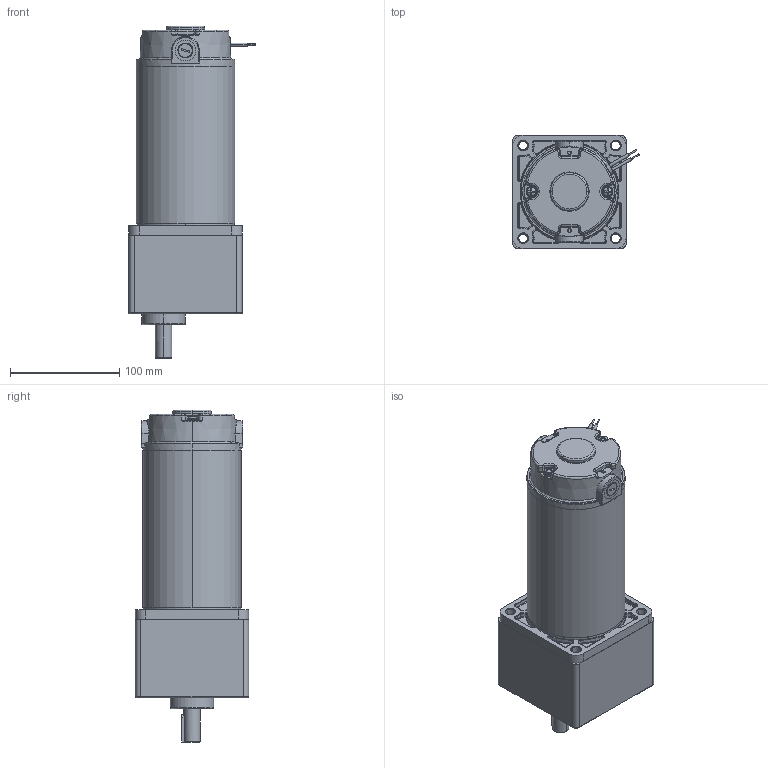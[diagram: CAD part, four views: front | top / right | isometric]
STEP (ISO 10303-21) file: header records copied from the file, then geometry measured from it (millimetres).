
FILE_DESCRIPTION (( 'STEP AP203' ), '1' );
FILE_NAME ('104ÐÍ400W.STEP', '2020-01-16T07:25:11', ( 'XYDIY' ), ( 'XIAOYIN.Com' ), 'SwSTEP 2.0', 'SolidWorks 2014', '' );
FILE_SCHEMA (( 'CONFIG_CONTROL_DESIGN' ));
Length unit declared in the file: millimetre
Products named in the file (1): 104倰400W
Bounding box: 115.97 x 104 x 304.2 mm (x, y, z)
Surface area: 126505.4 mm2 (no closed solid volume)
Topology: 0 solids, 20 shells, 568 faces, 1493 edges, 940 vertices
Faces by surface type: cylinder 155, torus 138, plane 125, cone 95, bspline 51, sphere 4
Entity records: 25003 total; most frequent: CARTESIAN_POINT 11056, DIRECTION 3137, ORIENTED_EDGE 2714, EDGE_CURVE 1493, AXIS2_PLACEMENT_3D 1328, VERTEX_POINT 940, CIRCLE 810, EDGE_LOOP 615
